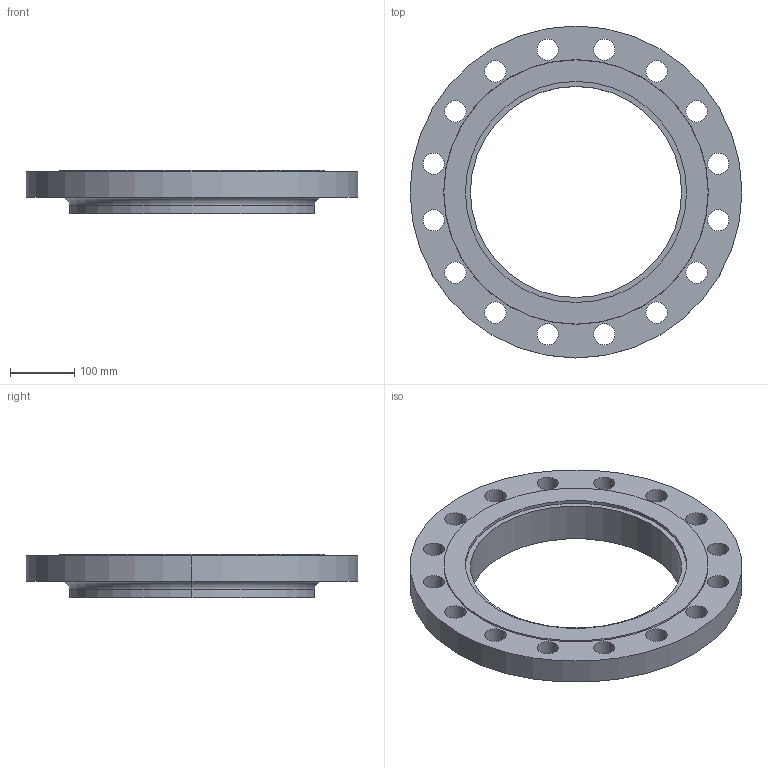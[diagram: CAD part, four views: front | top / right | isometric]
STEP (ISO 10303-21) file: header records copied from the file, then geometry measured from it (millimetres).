
FILE_DESCRIPTION (( 'STEP AP214' ), '1' );
FILE_NAME ('PN40 DN300 Type 12 - Type G Face.STEP', '2019-01-05T20:20:38', ( '' ), ( '' ), 'SwSTEP 2.0', 'SolidWorks 2019', '' );
FILE_SCHEMA (( 'AUTOMOTIVE_DESIGN' ));
Length unit declared in the file: millimetre
Products named in the file (1): PN40 DN300 Type 12 - Type G Face
Bounding box: 515 x 515 x 67 mm (x, y, z)
Volume: 5237287 mm3; surface area: 446936.3 mm2
Topology: 1 solids, 1 shells, 49 faces, 130 edges, 86 vertices
Faces by surface type: cylinder 40, plane 5, torus 2, cone 2
Entity records: 1678 total; most frequent: DIRECTION 318, CARTESIAN_POINT 266, ORIENTED_EDGE 260, AXIS2_PLACEMENT_3D 138, EDGE_CURVE 130, CIRCLE 88, VERTEX_POINT 86, EDGE_LOOP 86
